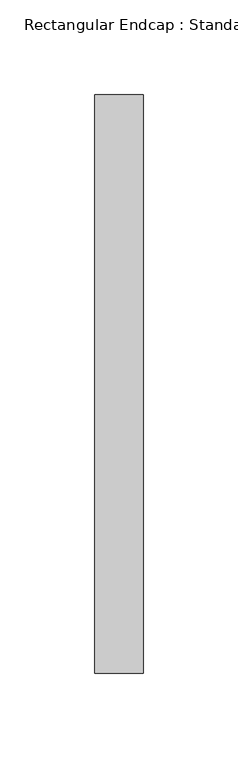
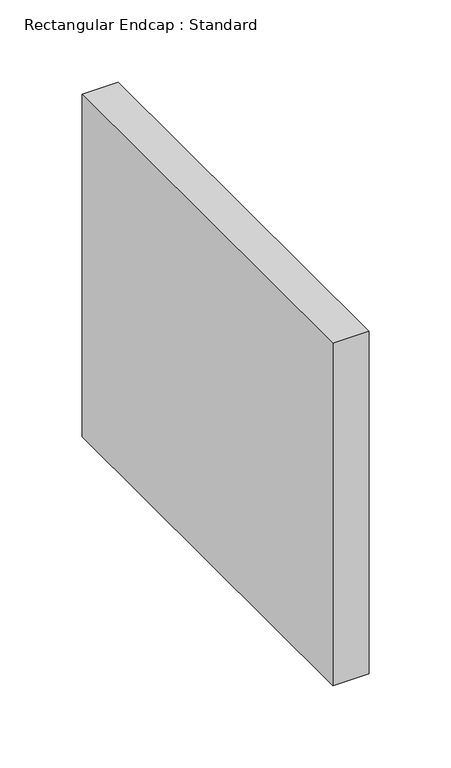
"""IFC4 building model written with IfcOpenShell, lengths in millimetres: duct fitting geometry, Rectangular Endcap : Standard."""

from ifc_helpers import new_model, si_unit, frame, origin, place, context, project, spatial, polyline, outline, extrude, source, transform, mapped, element, save


def rectangular_endcap_standard_ef5b1b5f(model_context):
    return source(origin(), model_context, "Body", "SweptSolid", [
        extrude(outline(polyline([(0.0, -152.4), (0.0, 152.4), (25.4, 152.4), (25.4, -152.4), (0.0, -152.4)])), frame((0.0, 0.0, -127.0), z_axis=(0.0, 0.0, 1.0), x_axis=(1.0, 0.0, 0.0)), (0.0, 0.0, 1.0), 254.0),
    ])


if __name__ == "__main__":
    model = new_model("IFC4")
    model_context = context("Model", 3, world=origin())
    ifc_project = project(units=[si_unit("LENGTHUNIT", "METRE", prefix="MILLI")], contexts=[model_context])
    site = spatial("IfcSite", under=ifc_project)
    building = spatial("IfcBuilding", under=site)
    placement = place(None, origin())
    rectangular_endcap_standard_shape = rectangular_endcap_standard_ef5b1b5f(model_context)
    element("IfcDuctFitting", 1, ObjectType="Rectangular Endcap : Standard", at=placement, inside=building, context=model_context, shape_type="MappedRepresentation", body=[
        mapped(rectangular_endcap_standard_shape, transform((0.0, 0.0, 0.0), x_axis=(1.0, 0.0, 0.0), y_axis=(0.0, 1.0, 0.0), z_axis=(0.0, 0.0, 1.0))),
    ])
    save(model, "model.ifc")
